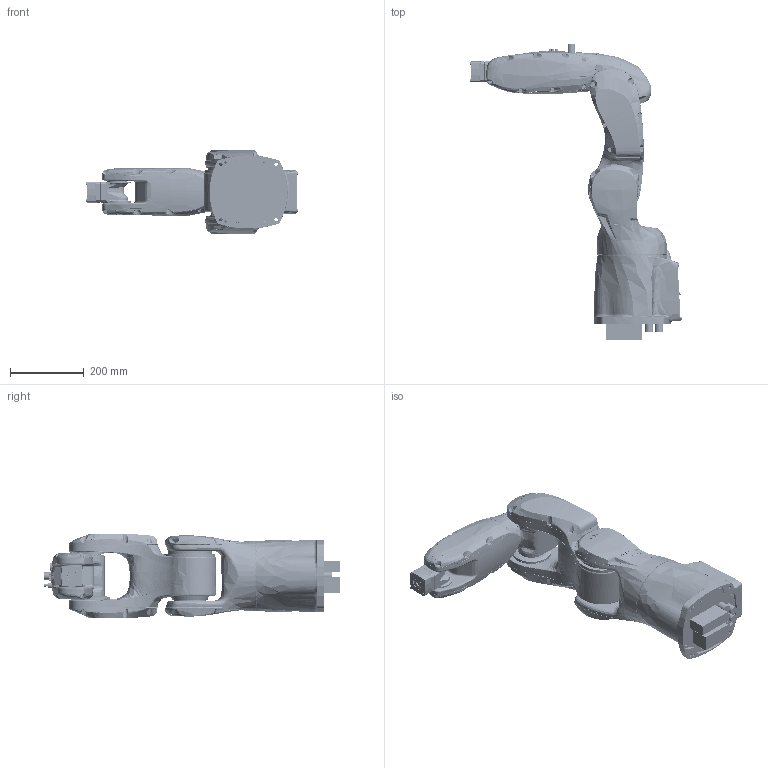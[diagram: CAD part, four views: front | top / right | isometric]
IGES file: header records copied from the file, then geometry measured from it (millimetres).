
Start section: SolidWorks IGES file using analytic representation for surfaces
Global section: file name: R:\RD\PME\SOLIDWK\Sldk_Selling Area\Semplificati\Racer\Racer5-0.63 SE\Racer5-0.63 SE (3D-IGES).IGS; native system: SolidWorks 2020; preprocessor: SolidWorks 2020; author: cmu1611; date: 220331.154900; units: millimetre
Bounding box: 574.79 x 804.5 x 230.28 mm (x, y, z)
Surface area: 1914830.2 mm2 (no closed solid volume)
Topology: 0 solids, 0 shells, 4145 faces, 69113 edges, 68995 vertices
Faces by surface type: bspline 2736, revolution 1409
